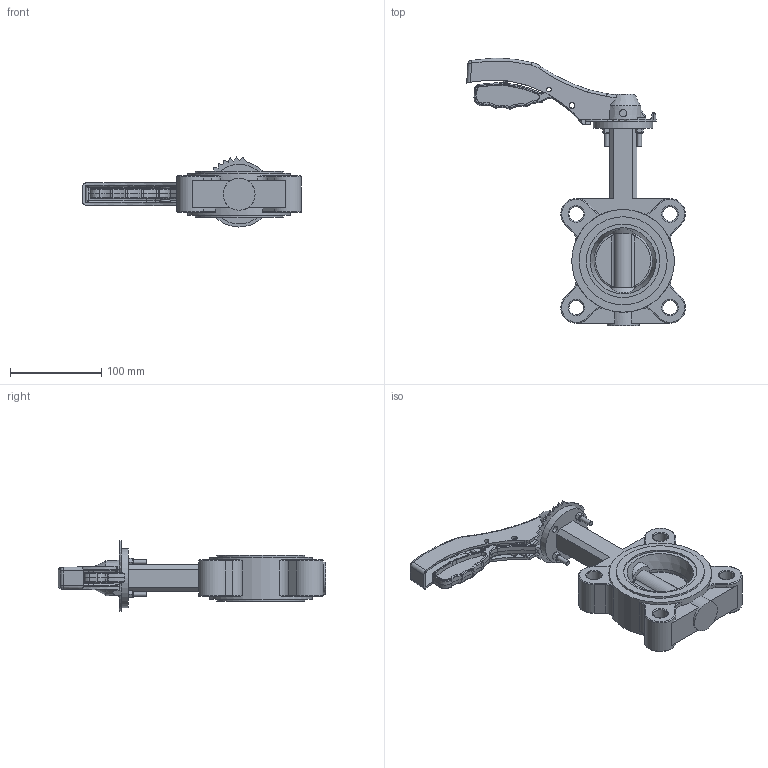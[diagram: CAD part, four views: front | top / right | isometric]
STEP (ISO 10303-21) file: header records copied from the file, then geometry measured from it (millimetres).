
FILE_DESCRIPTION (( 'STEP AP214' ), '1' );
FILE_NAME ('忒梟 等標評概Fig3240-65-16.STEP', '2026-03-20T05:56:33', ( '' ), ( '' ), 'SwSTEP 2.0', 'SolidWorks 2024', '' );
FILE_SCHEMA (( 'AUTOMOTIVE_DESIGN' ));
Length unit declared in the file: millimetre
Products named in the file (1): 手柄 单夹蝶阀Fig3240-65-16
Bounding box: 239.53 x 292.79 x 76.71 mm (x, y, z)
Volume: 706012 mm3; surface area: 137822.1 mm2
Topology: 1 solids, 6 shells, 1146 faces, 3186 edges, 2097 vertices
Faces by surface type: plane 750, cylinder 174, bspline 116, cone 74, torus 32
Full cylindrical faces by diameter (mm): 5 x5, 5.25 x3, 6.2 x2, 7 x4, 7.04 x2, 8 x1, 8.9 x2, 12.75 x1, 16 x4, 19.6 x1, 20 x1, 35 x1, 65 x1, 80.4 x2, 84.4 x1, 96.4 x2, 112.4 x1
Entity records: 58853 total; most frequent: CARTESIAN_POINT 18984, ORIENTED_EDGE 6188, DIRECTION 4725, EDGE_CURVE 3094, VERTEX_POINT 2067, LINE 2009, VECTOR 2009, AXIS2_PLACEMENT_3D 1358
